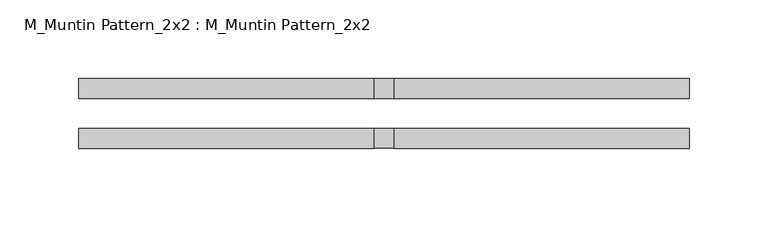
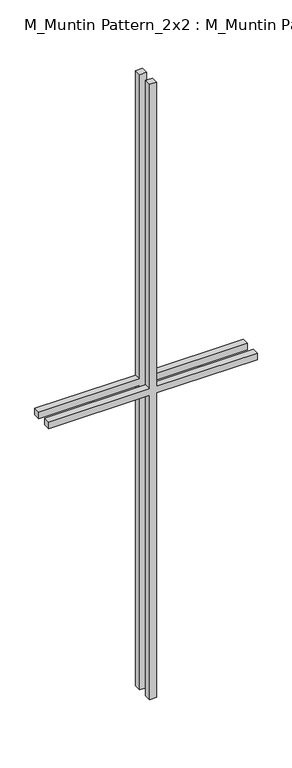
"""IFC4 building model written with IfcOpenShell, lengths in millimetres: proxy geometry, M_Muntin Pattern_2x2 : M_Muntin Pattern_2x2."""

from ifc_helpers import new_model, si_unit, frame, origin, place, context, project, spatial, polyline, outline, extrude, source, transform, mapped, element, save


def m_muntin_pattern_2x2_m_muntin_pattern_2x2_eb2ebf6d(model_context):
    return source(origin(), model_context, "Body", "SweptSolid", [
        extrude(outline(polyline([(611.5, -6.35), (611.5, -194.2375), (598.8, -194.2375), (598.8, -6.35), (0.0, -6.35), (0.0, 6.35), (598.8, 6.35), (598.8, 194.2375), (611.5, 194.2375), (611.5, 6.35), (1210.3, 6.35), (1210.3, -6.35), (611.5, -6.35)])), frame((0.0, 9.525, 0.0), z_axis=(0.0, 1.0, 0.0), x_axis=(0.0, 0.0, 1.0)), (0.0, 0.0, 1.0), 12.7),
        extrude(outline(polyline([(611.5, -6.35), (611.5, -194.2375), (598.8, -194.2375), (598.8, -6.35), (0.0, -6.35), (0.0, 6.35), (598.8, 6.35), (598.8, 194.2375), (611.5, 194.2375), (611.5, 6.35), (1210.3, 6.35), (1210.3, -6.35), (611.5, -6.35)])), frame((0.0, -22.225, 0.0), z_axis=(0.0, 1.0, 0.0), x_axis=(0.0, 0.0, 1.0)), (0.0, 0.0, 1.0), 12.7),
    ])


if __name__ == "__main__":
    model = new_model("IFC4")
    model_context = context("Model", 3, world=origin())
    ifc_project = project(units=[si_unit("LENGTHUNIT", "METRE", prefix="MILLI")], contexts=[model_context])
    site = spatial("IfcSite", under=ifc_project)
    building = spatial("IfcBuilding", under=site)
    placement = place(None, origin())
    m_muntin_pattern_2x2_m_muntin_pattern_2x2_shape = m_muntin_pattern_2x2_m_muntin_pattern_2x2_eb2ebf6d(model_context)
    element("IfcBuildingElementProxy", 1, Name="M_Muntin Pattern_2x2 : M_Muntin Pattern_2x2", ObjectType="M_Muntin Pattern_2x2 : M_Muntin Pattern_2x2", at=placement, inside=building, context=model_context, shape_type="MappedRepresentation", body=[
        mapped(m_muntin_pattern_2x2_m_muntin_pattern_2x2_shape, transform((0.0, 0.0, 0.0), x_axis=(1.0, 0.0, 0.0), y_axis=(0.0, 1.0, 0.0), z_axis=(0.0, 0.0, 1.0))),
    ])
    save(model, "model.ifc")
